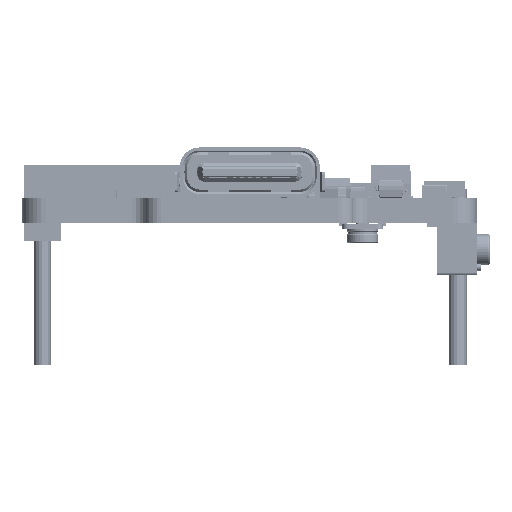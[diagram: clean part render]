
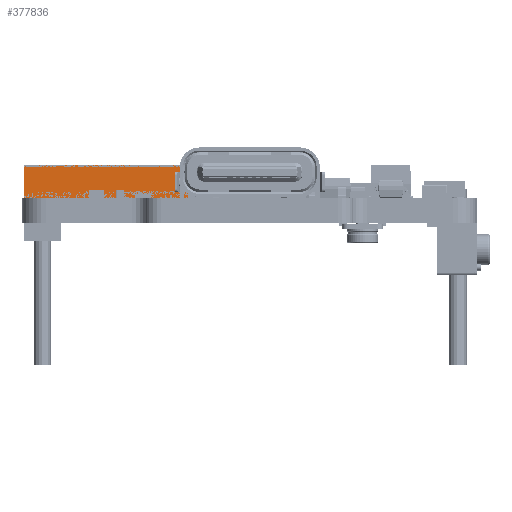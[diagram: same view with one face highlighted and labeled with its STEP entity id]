
A CAD part, front view. The second image highlights one B-rep face of the part: STEP entity #377836.
In plain terms, the highlighted planar face has unit normal (0, -1, 0).
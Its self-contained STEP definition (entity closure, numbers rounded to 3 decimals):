
#377695 = PLANE('',#377696);
#377696 = AXIS2_PLACEMENT_3D('',#377697,#377698,#377699);
#377697 = CARTESIAN_POINT('',(-5.867,7.226,2.1));
#377698 = DIRECTION('',(0.,0.,1.));
#377699 = DIRECTION('',(1.,0.,0.));
#377723 = PLANE('',#377724);
#377724 = AXIS2_PLACEMENT_3D('',#377725,#377726,#377727);
#377725 = CARTESIAN_POINT('',(6.909,7.226,0.));
#377726 = DIRECTION('',(1.,0.,0.));
#377727 = DIRECTION('',(0.,-1.,0.));
#377749 = PLANE('',#377750);
#377750 = AXIS2_PLACEMENT_3D('',#377751,#377752,#377753);
#377751 = CARTESIAN_POINT('',(-5.867,7.226,0.));
#377752 = DIRECTION('',(0.,0.,1.));
#377753 = DIRECTION('',(1.,0.,0.));
#377766 = VERTEX_POINT('',#377767);
#377767 = CARTESIAN_POINT('',(6.909,-7.226,2.1));
#377788 = EDGE_CURVE('',#377789,#377766,#377791,.T.);
#377789 = VERTEX_POINT('',#377790);
#377790 = CARTESIAN_POINT('',(6.909,-7.226,0.));
#377791 = SURFACE_CURVE('',#377792,(#377796,#377803),.PCURVE_S1.);
#377792 = LINE('',#377793,#377794);
#377793 = CARTESIAN_POINT('',(6.909,-7.226,0.));
#377794 = VECTOR('',#377795,1.);
#377795 = DIRECTION('',(0.,0.,1.));
#377796 = PCURVE('',#377723,#377797);
#377797 = DEFINITIONAL_REPRESENTATION('',(#377798),#377802);
#377798 = LINE('',#377799,#377800);
#377799 = CARTESIAN_POINT('',(14.453,0.));
#377800 = VECTOR('',#377801,1.);
#377801 = DIRECTION('',(0.,-1.));
#377802 = ( GEOMETRIC_REPRESENTATION_CONTEXT(2) 
PARAMETRIC_REPRESENTATION_CONTEXT() REPRESENTATION_CONTEXT('2D SPACE',''
  ) );
#377803 = PCURVE('',#377804,#377809);
#377804 = PLANE('',#377805);
#377805 = AXIS2_PLACEMENT_3D('',#377806,#377807,#377808);
#377806 = CARTESIAN_POINT('',(6.909,-7.226,0.));
#377807 = DIRECTION('',(0.,-1.,0.));
#377808 = DIRECTION('',(-1.,0.,0.));
#377809 = DEFINITIONAL_REPRESENTATION('',(#377810),#377814);
#377810 = LINE('',#377811,#377812);
#377811 = CARTESIAN_POINT('',(0.,0.));
#377812 = VECTOR('',#377813,1.);
#377813 = DIRECTION('',(0.,-1.));
#377814 = ( GEOMETRIC_REPRESENTATION_CONTEXT(2) 
PARAMETRIC_REPRESENTATION_CONTEXT() REPRESENTATION_CONTEXT('2D SPACE',''
  ) );
#377836 = ADVANCED_FACE('',(#377837),#377804,.T.);
#377837 = FACE_BOUND('',#377838,.T.);
#377838 = EDGE_LOOP('',(#377839,#377840,#377863,#377891));
#377839 = ORIENTED_EDGE('',*,*,#377788,.T.);
#377840 = ORIENTED_EDGE('',*,*,#377841,.T.);
#377841 = EDGE_CURVE('',#377766,#377842,#377844,.T.);
#377842 = VERTEX_POINT('',#377843);
#377843 = CARTESIAN_POINT('',(-6.909,-7.226,2.1));
#377844 = SURFACE_CURVE('',#377845,(#377849,#377856),.PCURVE_S1.);
#377845 = LINE('',#377846,#377847);
#377846 = CARTESIAN_POINT('',(6.909,-7.226,2.1));
#377847 = VECTOR('',#377848,1.);
#377848 = DIRECTION('',(-1.,0.,0.));
#377849 = PCURVE('',#377804,#377850);
#377850 = DEFINITIONAL_REPRESENTATION('',(#377851),#377855);
#377851 = LINE('',#377852,#377853);
#377852 = CARTESIAN_POINT('',(0.,-2.1));
#377853 = VECTOR('',#377854,1.);
#377854 = DIRECTION('',(1.,0.));
#377855 = ( GEOMETRIC_REPRESENTATION_CONTEXT(2) 
PARAMETRIC_REPRESENTATION_CONTEXT() REPRESENTATION_CONTEXT('2D SPACE',''
  ) );
#377856 = PCURVE('',#377695,#377857);
#377857 = DEFINITIONAL_REPRESENTATION('',(#377858),#377862);
#377858 = LINE('',#377859,#377860);
#377859 = CARTESIAN_POINT('',(12.776,-14.453));
#377860 = VECTOR('',#377861,1.);
#377861 = DIRECTION('',(-1.,0.));
#377862 = ( GEOMETRIC_REPRESENTATION_CONTEXT(2) 
PARAMETRIC_REPRESENTATION_CONTEXT() REPRESENTATION_CONTEXT('2D SPACE',''
  ) );
#377863 = ORIENTED_EDGE('',*,*,#377864,.F.);
#377864 = EDGE_CURVE('',#377865,#377842,#377867,.T.);
#377865 = VERTEX_POINT('',#377866);
#377866 = CARTESIAN_POINT('',(-6.909,-7.226,0.));
#377867 = SURFACE_CURVE('',#377868,(#377872,#377879),.PCURVE_S1.);
#377868 = LINE('',#377869,#377870);
#377869 = CARTESIAN_POINT('',(-6.909,-7.226,0.));
#377870 = VECTOR('',#377871,1.);
#377871 = DIRECTION('',(0.,0.,1.));
#377872 = PCURVE('',#377804,#377873);
#377873 = DEFINITIONAL_REPRESENTATION('',(#377874),#377878);
#377874 = LINE('',#377875,#377876);
#377875 = CARTESIAN_POINT('',(13.818,0.));
#377876 = VECTOR('',#377877,1.);
#377877 = DIRECTION('',(0.,-1.));
#377878 = ( GEOMETRIC_REPRESENTATION_CONTEXT(2) 
PARAMETRIC_REPRESENTATION_CONTEXT() REPRESENTATION_CONTEXT('2D SPACE',''
  ) );
#377879 = PCURVE('',#377880,#377885);
#377880 = PLANE('',#377881);
#377881 = AXIS2_PLACEMENT_3D('',#377882,#377883,#377884);
#377882 = CARTESIAN_POINT('',(-6.909,-7.226,0.));
#377883 = DIRECTION('',(-1.,0.,0.));
#377884 = DIRECTION('',(0.,1.,0.));
#377885 = DEFINITIONAL_REPRESENTATION('',(#377886),#377890);
#377886 = LINE('',#377887,#377888);
#377887 = CARTESIAN_POINT('',(0.,0.));
#377888 = VECTOR('',#377889,1.);
#377889 = DIRECTION('',(0.,-1.));
#377890 = ( GEOMETRIC_REPRESENTATION_CONTEXT(2) 
PARAMETRIC_REPRESENTATION_CONTEXT() REPRESENTATION_CONTEXT('2D SPACE',''
  ) );
#377891 = ORIENTED_EDGE('',*,*,#377892,.F.);
#377892 = EDGE_CURVE('',#377789,#377865,#377893,.T.);
#377893 = SURFACE_CURVE('',#377894,(#377898,#377905),.PCURVE_S1.);
#377894 = LINE('',#377895,#377896);
#377895 = CARTESIAN_POINT('',(6.909,-7.226,0.));
#377896 = VECTOR('',#377897,1.);
#377897 = DIRECTION('',(-1.,0.,0.));
#377898 = PCURVE('',#377804,#377899);
#377899 = DEFINITIONAL_REPRESENTATION('',(#377900),#377904);
#377900 = LINE('',#377901,#377902);
#377901 = CARTESIAN_POINT('',(0.,0.));
#377902 = VECTOR('',#377903,1.);
#377903 = DIRECTION('',(1.,0.));
#377904 = ( GEOMETRIC_REPRESENTATION_CONTEXT(2) 
PARAMETRIC_REPRESENTATION_CONTEXT() REPRESENTATION_CONTEXT('2D SPACE',''
  ) );
#377905 = PCURVE('',#377749,#377906);
#377906 = DEFINITIONAL_REPRESENTATION('',(#377907),#377911);
#377907 = LINE('',#377908,#377909);
#377908 = CARTESIAN_POINT('',(12.776,-14.453));
#377909 = VECTOR('',#377910,1.);
#377910 = DIRECTION('',(-1.,0.));
#377911 = ( GEOMETRIC_REPRESENTATION_CONTEXT(2) 
PARAMETRIC_REPRESENTATION_CONTEXT() REPRESENTATION_CONTEXT('2D SPACE',''
  ) );
